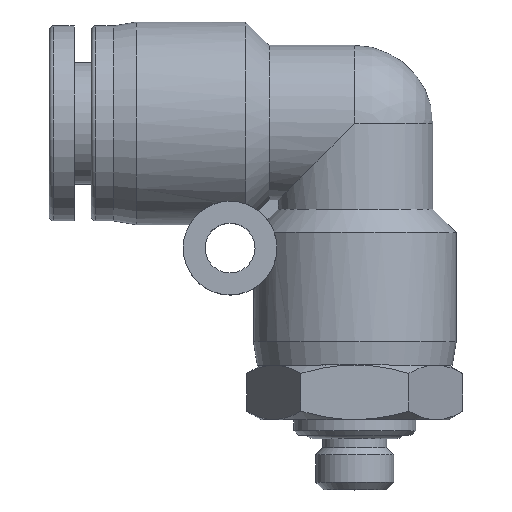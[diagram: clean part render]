
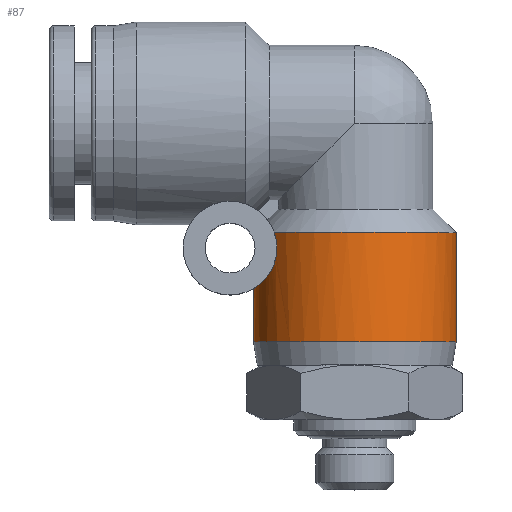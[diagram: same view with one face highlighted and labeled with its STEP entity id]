
A CAD part, top view. The second image highlights one B-rep face of the part: STEP entity #87.
In plain terms, the highlighted cylindrical face has radius 6.5 mm (diameter 13 mm), a full revolution.
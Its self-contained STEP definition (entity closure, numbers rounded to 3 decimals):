
#87 = ADVANCED_FACE( '', ( #170, #171 ), #172, .T. );
#170 = FACE_OUTER_BOUND( '', #338, .T. );
#171 = FACE_OUTER_BOUND( '', #339, .T. );
#172 = CYLINDRICAL_SURFACE( '', #340, 6.5 );
#338 = EDGE_LOOP( '', ( #565 ) );
#339 = EDGE_LOOP( '', ( #566, #567 ) );
#340 = AXIS2_PLACEMENT_3D( '', #568, #569, #570 );
#565 = ORIENTED_EDGE( '', *, *, #931, .F. );
#566 = ORIENTED_EDGE( '', *, *, #919, .F. );
#567 = ORIENTED_EDGE( '', *, *, #928, .T. );
#568 = CARTESIAN_POINT( '', ( 0., -100., 0. ) );
#569 = DIRECTION( '', ( 0., 1., 0. ) );
#570 = DIRECTION( '', ( 0., 0., -1. ) );
#919 = EDGE_CURVE( '', #1062, #1064, #1065, .T. );
#928 = EDGE_CURVE( '', #1062, #1064, #1080, .T. );
#931 = EDGE_CURVE( '', #1084, #1084, #1085, .T. );
#1062 = VERTEX_POINT( '', #1340 );
#1064 = VERTEX_POINT( '', #1349 );
#1065 = B_SPLINE_CURVE_WITH_KNOTS( '', 3, ( #1350, #1351, #1352, #1353, #1354, #1355, #1356, #1357, #1358, #1359, #1360, #1361, #1362, #1363, #1364, #1365, #1366, #1367, #1368, #1369, #1370, #1371, #1372, #1373, #1374, #1375, #1376, #1377, #1378, #1379, #1380, #1381, #1382, #1383, #1384, #1385, #1386, #1387, #1388, #1389, #1390, #1391, #1392, #1393, #1394, #1395, #1396, #1397, #1398, #1399 ), .UNSPECIFIED., .F., .F., ( 4, 2, 2, 2, 2, 2, 2, 2, 2, 2, 2, 2, 2, 2, 2, 2, 2, 2, 2, 2, 2, 2, 2, 2, 4 ), ( 0.005, 0.005, 0.006, 0.006, 0.006, 0.007, 0.007, 0.008, 0.008, 0.009, 0.009, 0.01, 0.011, 0.011, 0.012, 0.013, 0.014, 0.015, 0.015, 0.016, 0.016, 0.017, 0.017, 0.018, 0.018 ), .UNSPECIFIED. );
#1080 = CIRCLE( '', #1426, 6.5 );
#1084 = VERTEX_POINT( '', #1433 );
#1085 = CIRCLE( '', #1434, 6.5 );
#1340 = CARTESIAN_POINT( '', ( -5.172, 16.5, -3.938 ) );
#1349 = CARTESIAN_POINT( '', ( -5.172, 16.5, 3.938 ) );
#1350 = CARTESIAN_POINT( '', ( -5.172, 16.5, -3.938 ) );
#1351 = CARTESIAN_POINT( '', ( -5.128, 16.376, -3.995 ) );
#1352 = CARTESIAN_POINT( '', ( -5.091, 16.248, -4.041 ) );
#1353 = CARTESIAN_POINT( '', ( -5.035, 15.979, -4.111 ) );
#1354 = CARTESIAN_POINT( '', ( -5.016, 15.838, -4.134 ) );
#1355 = CARTESIAN_POINT( '', ( -4.997, 15.554, -4.157 ) );
#1356 = CARTESIAN_POINT( '', ( -4.998, 15.412, -4.156 ) );
#1357 = CARTESIAN_POINT( '', ( -5.02, 15.129, -4.13 ) );
#1358 = CARTESIAN_POINT( '', ( -5.041, 14.988, -4.104 ) );
#1359 = CARTESIAN_POINT( '', ( -5.1, 14.72, -4.03 ) );
#1360 = CARTESIAN_POINT( '', ( -5.138, 14.59, -3.982 ) );
#1361 = CARTESIAN_POINT( '', ( -5.228, 14.345, -3.863 ) );
#1362 = CARTESIAN_POINT( '', ( -5.279, 14.232, -3.794 ) );
#1363 = CARTESIAN_POINT( '', ( -5.388, 14.02, -3.637 ) );
#1364 = CARTESIAN_POINT( '', ( -5.447, 13.922, -3.549 ) );
#1365 = CARTESIAN_POINT( '', ( -5.565, 13.745, -3.361 ) );
#1366 = CARTESIAN_POINT( '', ( -5.625, 13.665, -3.26 ) );
#1367 = CARTESIAN_POINT( '', ( -5.743, 13.521, -3.046 ) );
#1368 = CARTESIAN_POINT( '', ( -5.802, 13.456, -2.932 ) );
#1369 = CARTESIAN_POINT( '', ( -5.915, 13.341, -2.697 ) );
#1370 = CARTESIAN_POINT( '', ( -5.969, 13.291, -2.576 ) );
#1371 = CARTESIAN_POINT( '', ( -6.121, 13.158, -2.204 ) );
#1372 = CARTESIAN_POINT( '', ( -6.21, 13.091, -1.941 ) );
#1373 = CARTESIAN_POINT( '', ( -6.354, 12.99, -1.399 ) );
#1374 = CARTESIAN_POINT( '', ( -6.408, 12.957, -1.124 ) );
#1375 = CARTESIAN_POINT( '', ( -6.481, 12.912, -0.567 ) );
#1376 = CARTESIAN_POINT( '', ( -6.5, 12.902, -0.286 ) );
#1377 = CARTESIAN_POINT( '', ( -6.5, 12.902, 0.285 ) );
#1378 = CARTESIAN_POINT( '', ( -6.481, 12.912, 0.567 ) );
#1379 = CARTESIAN_POINT( '', ( -6.408, 12.957, 1.124 ) );
#1380 = CARTESIAN_POINT( '', ( -6.354, 12.99, 1.398 ) );
#1381 = CARTESIAN_POINT( '', ( -6.21, 13.091, 1.94 ) );
#1382 = CARTESIAN_POINT( '', ( -6.121, 13.157, 2.203 ) );
#1383 = CARTESIAN_POINT( '', ( -5.919, 13.335, 2.7 ) );
#1384 = CARTESIAN_POINT( '', ( -5.803, 13.449, 2.939 ) );
#1385 = CARTESIAN_POINT( '', ( -5.625, 13.665, 3.26 ) );
#1386 = CARTESIAN_POINT( '', ( -5.565, 13.745, 3.361 ) );
#1387 = CARTESIAN_POINT( '', ( -5.447, 13.922, 3.549 ) );
#1388 = CARTESIAN_POINT( '', ( -5.388, 14.02, 3.637 ) );
#1389 = CARTESIAN_POINT( '', ( -5.279, 14.231, 3.794 ) );
#1390 = CARTESIAN_POINT( '', ( -5.228, 14.345, 3.863 ) );
#1391 = CARTESIAN_POINT( '', ( -5.139, 14.589, 3.981 ) );
#1392 = CARTESIAN_POINT( '', ( -5.1, 14.719, 4.03 ) );
#1393 = CARTESIAN_POINT( '', ( -5.012, 15.119, 4.14 ) );
#1394 = CARTESIAN_POINT( '', ( -4.988, 15.41, 4.168 ) );
#1395 = CARTESIAN_POINT( '', ( -5.015, 15.834, 4.135 ) );
#1396 = CARTESIAN_POINT( '', ( -5.035, 15.976, 4.111 ) );
#1397 = CARTESIAN_POINT( '', ( -5.091, 16.247, 4.041 ) );
#1398 = CARTESIAN_POINT( '', ( -5.128, 16.376, 3.995 ) );
#1399 = CARTESIAN_POINT( '', ( -5.172, 16.5, 3.938 ) );
#1426 = AXIS2_PLACEMENT_3D( '', #1745, #1746, #1747 );
#1433 = CARTESIAN_POINT( '', ( 0., 9.5, -6.5 ) );
#1434 = AXIS2_PLACEMENT_3D( '', #1751, #1752, #1753 );
#1745 = CARTESIAN_POINT( '', ( 0., 16.5, 0. ) );
#1746 = DIRECTION( '', ( 0., -1., 0. ) );
#1747 = DIRECTION( '', ( 0., 0., -1. ) );
#1751 = CARTESIAN_POINT( '', ( 0., 9.5, 0. ) );
#1752 = DIRECTION( '', ( 0., -1., 0. ) );
#1753 = DIRECTION( '', ( 0., 0., -1. ) );
